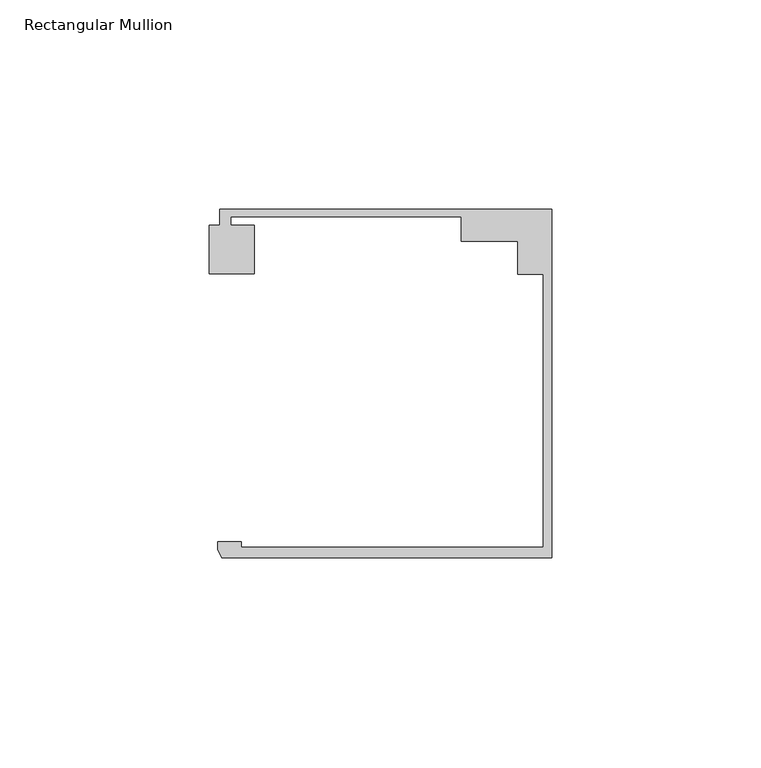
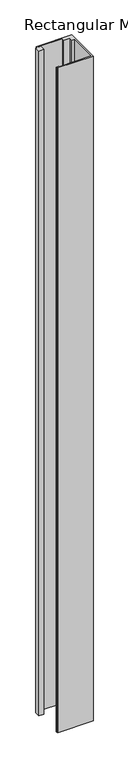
"""IFC4 building model written with IfcOpenShell, lengths in millimetres: member geometry, Rectangular Mullion : Danpal_Airpt_End-Mullion_B2."""

from ifc_helpers import new_model, si_unit, frame, origin, place, context, project, spatial, polyline, outline, extrude, source, transform, mapped, element, save


def rectangular_mullion_f0db64cb(model_context):
    return source(origin(), model_context, "Body", "SweptSolid", [
        extrude(outline(polyline([(39.9953159, -74.9940824), (39.9953159, -9.7188964), (33.895316, -9.7188964), (33.895316, -1.8818054), (20.4474994, -1.8818054), (20.4474994, 4.0051512), (-34.6525006, 4.0051512), (-34.6525006, 2.0051513), (-29.1480372, 2.0051513), (-29.1480372, -9.6875514), (-39.8639164, -9.6875514), (-39.8639164, 2.0051513), (-37.3521714, 2.0051513), (-37.3521714, 5.8051514), (41.995316, 5.8051514), (41.995316, -77.4940825), (-36.8561849, -77.4940825), (-37.7831446, -75.5472671), (-37.7831446, -73.6940824), (-32.2521508, -73.6940824), (-32.2521508, -74.9940824), (39.9953159, -74.9940824)])), frame((0.0, 0.0, -1571.7815629), z_axis=(0.0, 0.0, 1.0), x_axis=(1.0, 0.0, 0.0)), (0.0, 0.0, 1.0), 1571.7815629),
    ])


if __name__ == "__main__":
    model = new_model("IFC4")
    model_context = context("Model", 3, world=origin())
    ifc_project = project(units=[si_unit("LENGTHUNIT", "METRE", prefix="MILLI")], contexts=[model_context])
    site = spatial("IfcSite", under=ifc_project)
    building = spatial("IfcBuilding", under=site)
    placement = place(None, origin())
    rectangular_mullion_shape = rectangular_mullion_f0db64cb(model_context)
    element("IfcMember", 1, ObjectType="Rectangular Mullion : Danpal_Airpt_End-Mullion_B2", at=placement, inside=building, context=model_context, shape_type="MappedRepresentation", body=[
        mapped(rectangular_mullion_shape, transform((0.0, 0.0, 0.0), x_axis=(1.0, 0.0, 0.0), y_axis=(0.0, 1.0, 0.0), z_axis=(0.0, 0.0, 1.0))),
    ])
    save(model, "model.ifc")
